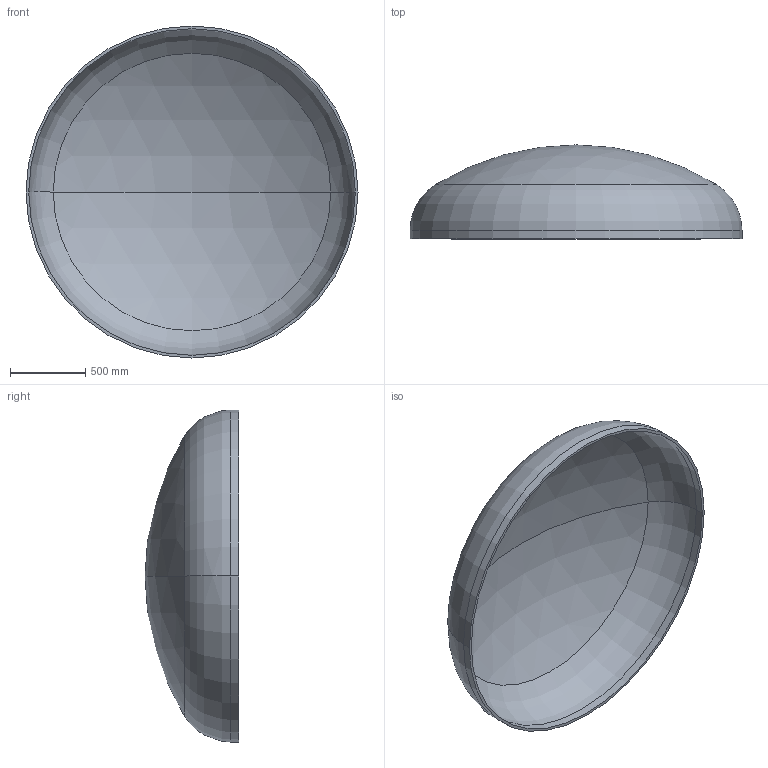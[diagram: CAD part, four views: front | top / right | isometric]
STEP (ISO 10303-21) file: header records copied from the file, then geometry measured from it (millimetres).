
FILE_DESCRIPTION (( 'STEP AP203' ), '1' );
FILE_NAME ('DIN 28013 Korbbogenform_-_Boden DIN 28013 - 2200 x 55 - I - s=18.step', '2016-07-01T14:23:16', ( '' ), ( '' ), 'SwSTEP 2.0', 'SolidWorks 2013', '' );
FILE_SCHEMA (( 'CONFIG_CONTROL_DESIGN' ));
Length unit declared in the file: millimetre
Products named in the file (1): DIN 28013 Korbbogenform_-_Boden DIN 28013 - 2200 x 55 - I - s=18
Bounding box: 2200 x 622.28 x 2200 mm (x, y, z)
Volume: 100598179.9 mm3; surface area: 11301639.1 mm2
Topology: 1 solids, 1 shells, 13 faces, 24 edges, 14 vertices
Faces by surface type: torus 4, cylinder 4, sphere 4, plane 1
Entity records: 407 total; most frequent: DIRECTION 72, CARTESIAN_POINT 52, ORIENTED_EDGE 48, AXIS2_PLACEMENT_3D 34, EDGE_CURVE 24, CIRCLE 20, VERTEX_POINT 14, EDGE_LOOP 14
